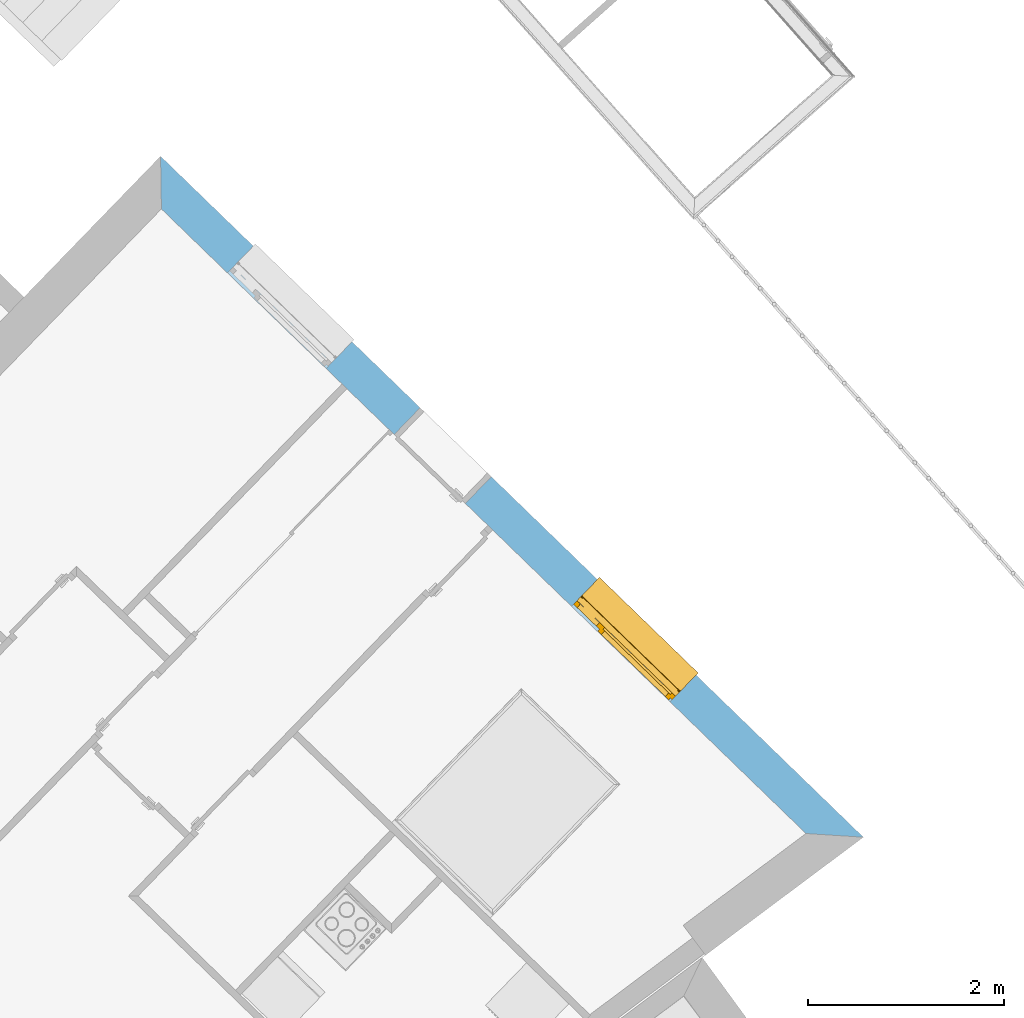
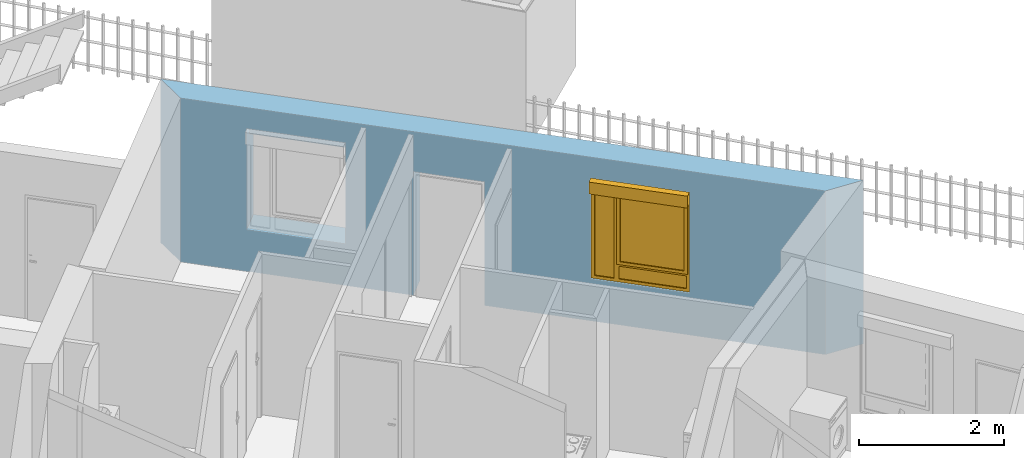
# One storey, part 25 of 195: 1 window, 3 openings, plus 1 element that does not belong to this part.
"""IFC2X3 building model written with IfcOpenShell, lengths in metres."""

import ifcopenshell
import ifcopenshell.guid

model = None  # the IFC model being written
_history = None  # IfcOwnerHistory: only IFC2X3 demands one
_inside = {}  # id of a spatial element -> (the spatial element, [elements in it])
_under = {}  # id of a project, library or spatial element -> (it, [spatial elements below it])
_declared = {}  # id of a project -> (the project, [libraries it declares])
_typed = {}  # id of a type object -> (the type object, [elements of that type])
_made_of = {}  # id of a material, layer set ... -> (it, [elements and type objects made of it])


def new_model(schema):
    """Start an empty IFC model of exactly this schema.

    Asked for "IFC4X3", IfcOpenShell would pick the latest addendum, in which some entities
    have other attributes; the version numbers below select the first issue.
    IFC2X3 requires an IfcOwnerHistory on every rooted entity: one is made here for all.
    """
    global model, _history
    if schema == "IFC4X3":
        model = ifcopenshell.file(schema_version=(4, 3, 0, 0))
    else:
        model = ifcopenshell.file(schema=schema)
    _inside.clear()
    _under.clear()
    _declared.clear()
    _typed.clear()
    _made_of.clear()
    _history = None
    if model.schema == "IFC2X3":
        org = make("IfcOrganization", Name="unknown")
        user = make(
            "IfcPersonAndOrganization",
            ThePerson=make("IfcPerson", FamilyName="unknown"),
            TheOrganization=org,
        )
        app = make(
            "IfcApplication",
            ApplicationDeveloper=org,
            Version="unknown",
            ApplicationFullName="unknown",
            ApplicationIdentifier="unknown",
        )
        _history = make(
            "IfcOwnerHistory",
            OwningUser=user,
            OwningApplication=app,
            ChangeAction="ADDED",
            CreationDate=0,
        )
    return model


def make(cls, **values):
    """One entity of the class cls with the attributes given. An attribute that is None is left unset."""
    return model.create_entity(
        cls, **{name: value for name, value in values.items() if value is not None}
    )


def entity(cls, *values):
    """Any entity or typed value of the class cls, its attributes in the order of the schema. None: left unset."""
    e = model.create_entity(cls)
    for i, value in enumerate(values):
        if value is not None:
            e[i] = value
    return e


def rooted(cls, **values):
    """An entity with a GlobalId (a new one), such as an element, a storey or a relation."""
    return make(cls, GlobalId=ifcopenshell.guid.new(), OwnerHistory=_history, **values)


def si_unit(unit_type, name, prefix=None):
    """IfcSIUnit, for example si_unit("LENGTHUNIT", "METRE", prefix="MILLI")."""
    return make("IfcSIUnit", UnitType=unit_type, Prefix=prefix, Name=name)


def converted_unit(unit_type, name, factor, base, dimensions=None, offset=None):
    """IfcConversionBasedUnit, such as the inch: factor (a typed value) times the base unit."""
    return make(
        "IfcConversionBasedUnit"
        if offset is None
        else "IfcConversionBasedUnitWithOffset",
        ConversionOffset=offset,
        Dimensions=None
        if dimensions is None
        else entity("IfcDimensionalExponents", *dimensions),
        UnitType=unit_type,
        Name=name,
        ConversionFactor=make(
            "IfcMeasureWithUnit", ValueComponent=factor, UnitComponent=base
        ),
    )


def derived_unit(unit_type, elements):
    """IfcDerivedUnit: a product of units, each with its exponent."""
    return make(
        "IfcDerivedUnit",
        Elements=[
            make("IfcDerivedUnitElement", Unit=unit, Exponent=power)
            for unit, power in elements
        ],
        UnitType=unit_type,
    )


def money_unit(currency):
    """IfcMonetaryUnit."""
    return make("IfcMonetaryUnit", Currency=currency)


def assignment(units):
    """IfcUnitAssignment: the units of a project."""
    return None if units is None else make("IfcUnitAssignment", Units=units)


def point(xyz):
    """IfcCartesianPoint."""
    return None if xyz is None else make("IfcCartesianPoint", Coordinates=xyz)


def direction(xyz):
    """IfcDirection."""
    return None if xyz is None else make("IfcDirection", DirectionRatios=xyz)


def frame(location, z_axis=None, x_axis=None):
    """IfcAxis2Placement3D, a coordinate frame: its origin and axes. An axis left out is left unset."""
    return make(
        "IfcAxis2Placement3D",
        Location=point(location),
        Axis=direction(z_axis),
        RefDirection=direction(x_axis),
    )


def frame_2d(location, x_axis=None):
    """IfcAxis2Placement2D, a coordinate frame in the plane: its origin and x axis."""
    return make(
        "IfcAxis2Placement2D", Location=point(location), RefDirection=direction(x_axis)
    )


def origin_with_axes():
    """The frame at (0, 0, 0) with the z axis (0, 0, 1) and the x axis (1, 0, 0) written out."""
    return frame((0.0, 0.0, 0.0), z_axis=(0.0, 0.0, 1.0), x_axis=(1.0, 0.0, 0.0))


def origin_2d_with_axis():
    """The frame at (0, 0) in the plane with the x axis (1, 0) written out."""
    return frame_2d((0.0, 0.0), x_axis=(1.0, 0.0))


def place(relative_to, where):
    """IfcLocalPlacement: puts the frame where relative to a parent placement (None: the world)."""
    return make(
        "IfcLocalPlacement", PlacementRelTo=relative_to, RelativePlacement=where
    )


def context(
    kind, dimensions, precision=None, world=None, true_north=None, identifier=None
):
    """IfcGeometricRepresentationContext, for example the 3D "Model" context."""
    return make(
        "IfcGeometricRepresentationContext",
        ContextIdentifier=identifier,
        ContextType=kind,
        CoordinateSpaceDimension=dimensions,
        Precision=precision,
        WorldCoordinateSystem=world,
        TrueNorth=true_north,
    )


def subcontext(parent, identifier, kind, view, scale=None):
    """IfcGeometricRepresentationSubContext, for example "Body" below "Model"."""
    return make(
        "IfcGeometricRepresentationSubContext",
        ContextIdentifier=identifier,
        ContextType=kind,
        ParentContext=parent,
        TargetScale=scale,
        TargetView=view,
    )


def project(units=None, contexts=None):
    """IfcProject with its units and contexts."""
    return rooted(
        "IfcProject",
        Name="project",
        RepresentationContexts=contexts,
        UnitsInContext=assignment(units),
    )


def spatial(cls, under=None, at=None, **own):
    """A site, building, storey or space (cls), placed at a placement, below another one or the project."""
    s = rooted(cls, ObjectPlacement=at, **own)
    if under is not None:
        _under.setdefault(under.id(), (under, []))[1].append(s)
    return s


def polyline(points):
    """IfcPolyline through the points."""
    return make("IfcPolyline", Points=[point(p) for p in points])


def profile(cls, at=None, kind="AREA", **sizes):
    """A parametric profile (cls). Its sizes go by their IFC names, for example OverallWidth=200.0."""
    return make(cls, ProfileType=kind, Position=at, **sizes)


def rectangle(**sizes):
    """IfcRectangleProfileDef."""
    return profile("IfcRectangleProfileDef", **sizes)


def outline(outer, holes=None, kind="AREA"):
    """IfcArbitraryClosedProfileDef: a profile drawn as a closed curve; with holes, ...WithVoids."""
    if holes is None:
        return make("IfcArbitraryClosedProfileDef", ProfileType=kind, OuterCurve=outer)
    return make(
        "IfcArbitraryProfileDefWithVoids",
        ProfileType=kind,
        OuterCurve=outer,
        InnerCurves=holes,
    )


def extrude(swept, where, along, depth):
    """IfcExtrudedAreaSolid: the profile swept, set in the frame where, extruded along a direction by depth."""
    return make(
        "IfcExtrudedAreaSolid",
        SweptArea=swept,
        Position=where,
        ExtrudedDirection=direction(along),
        Depth=depth,
    )


def faces_of(points, faces, orient=None, outer=None):
    """IfcFace entities. A face is a list of loops; a loop is a list of indices into points, from 0.

    orient and outer hold one flag for each loop. By default every Orientation is true, the
    first loop of a face is its IfcFaceOuterBound and the others are IfcFaceBound.
    """
    made = []
    for i, loops in enumerate(faces):
        bounds = []
        for j, loop in enumerate(loops):
            is_outer = j == 0 if outer is None else outer[i][j]
            bounds.append(
                make(
                    "IfcFaceOuterBound" if is_outer else "IfcFaceBound",
                    Bound=make("IfcPolyLoop", Polygon=[points[k] for k in loop]),
                    Orientation=True if orient is None else orient[i][j],
                )
            )
        made.append(make("IfcFace", Bounds=bounds))
    return made


def open_shell(faces, orient=None, outer=None):
    """The faces of one IfcOpenShell. surface_model builds it on its shared points."""
    return ("IfcOpenShell", faces, orient, outer)


def faceted_brep(points, faces, orient=None, outer=None, voids=None):
    """IfcFacetedBrep: a solid bounded by flat faces; with voids (closed shells), ...WithVoids."""
    shared = [point(p) for p in points]
    hull = make("IfcClosedShell", CfsFaces=faces_of(shared, faces, orient, outer))
    if voids is None:
        return make("IfcFacetedBrep", Outer=hull)
    return make(
        "IfcFacetedBrepWithVoids",
        Outer=hull,
        Voids=[
            make(cls, CfsFaces=faces_of(shared, fs, o, b)) for cls, fs, o, b in voids
        ],
    )


def surface_model(cls, points, shells):
    """IfcFaceBasedSurfaceModel or IfcShellBasedSurfaceModel (cls): surfaces that need not close."""
    shared = [point(p) for p in points]
    made = [make(c, CfsFaces=faces_of(shared, fs, o, b)) for c, fs, o, b in shells]
    if cls == "IfcFaceBasedSurfaceModel":
        return make(cls, FbsmFaces=made)
    return make(cls, SbsmBoundary=made)


def shape(context_of_items, identifier, shape_type, items):
    """IfcShapeRepresentation: the items that make up one representation, for example the "Body"."""
    return make(
        "IfcShapeRepresentation",
        ContextOfItems=context_of_items,
        RepresentationIdentifier=identifier,
        RepresentationType=shape_type,
        Items=items,
    )


def source(mapping_origin, context_of_items, identifier, shape_type, items):
    """IfcRepresentationMap: a shape defined once, which mapped items show again and again."""
    return make(
        "IfcRepresentationMap",
        MappingOrigin=mapping_origin,
        MappedRepresentation=shape(context_of_items, identifier, shape_type, items),
    )


def transform(
    local_origin,
    x_axis=None,
    y_axis=None,
    z_axis=None,
    scale=None,
    scale2=None,
    scale3=None,
    uniform=True,
):
    """IfcCartesianTransformationOperator3D, or its non-uniform kind. x_axis, y_axis, z_axis: its Axis1, 2, 3."""
    if uniform:
        return make(
            "IfcCartesianTransformationOperator3D",
            Axis1=direction(x_axis),
            Axis2=direction(y_axis),
            LocalOrigin=point(local_origin),
            Scale=scale,
            Axis3=direction(z_axis),
        )
    return make(
        "IfcCartesianTransformationOperator3DnonUniform",
        Axis1=direction(x_axis),
        Axis2=direction(y_axis),
        LocalOrigin=point(local_origin),
        Scale=scale,
        Axis3=direction(z_axis),
        Scale2=scale2,
        Scale3=scale3,
    )


def mapped(mapping_source, mapping_target):
    """IfcMappedItem: shows the shape of a source again, moved by a transform."""
    return make(
        "IfcMappedItem", MappingSource=mapping_source, MappingTarget=mapping_target
    )


def material(Name=None, Category=None):
    """IfcMaterial."""
    return make("IfcMaterial", Name=Name, Category=Category)


def layer(
    of_material, thickness, ventilated=None, Name=None, Category=None, Priority=None
):
    """IfcMaterialLayer: one layer of a wall or slab, of a material (None: an air gap)."""
    return make(
        "IfcMaterialLayer",
        Material=of_material,
        LayerThickness=thickness,
        IsVentilated=ventilated,
        Name=Name,
        Category=Category,
        Priority=Priority,
    )


def layer_set(layers, Name=None):
    """IfcMaterialLayerSet."""
    return make("IfcMaterialLayerSet", MaterialLayers=layers, LayerSetName=Name)


def layer_usage(for_layer_set, set_direction, sense, offset, extent=None):
    """IfcMaterialLayerSetUsage: how a layer set lies in its element."""
    return make(
        "IfcMaterialLayerSetUsage",
        ForLayerSet=for_layer_set,
        LayerSetDirection=set_direction,
        DirectionSense=sense,
        OffsetFromReferenceLine=offset,
        ReferenceExtent=extent,
    )


def made_of(thing, what):
    """Note that an element or type object is made of a material, layer set ...; save() writes the relation."""
    if what is not None:
        _made_of.setdefault(what.id(), (what, []))[1].append(thing)
    return thing


def type_object(cls, material=None, **own):
    """A type object (cls), such as IfcWallType, which elements share."""
    return made_of(rooted(cls, **own), material)


def element(
    cls,
    number,
    at=None,
    inside=None,
    cuts=None,
    type_object=None,
    material=None,
    context=None,
    identifier="Body",
    shape_type=None,
    held_by="IfcProductDefinitionShape",
    body=None,
    shapes=None,
    **own,
):
    """One element of the class cls, such as IfcWall. Its Tag is "e" and its number.

    at: its placement. inside: the storey or other place that contains it. cuts: it is an
    opening in that element (IfcRelVoidsElement). A single representation is given by context,
    identifier, shape_type and body (its items); several are given by shapes. held_by: the class
    of the entity that holds the representations. save() writes the other relations.
    """
    e = rooted(cls, Tag="e%d" % number, ObjectPlacement=at, **own)
    if body is not None:
        shapes = [shape(context, identifier, shape_type, body)]
    if shapes is not None:
        e.Representation = make(held_by, Representations=shapes)
    if inside is not None:
        _inside.setdefault(inside.id(), (inside, []))[1].append(e)
    if cuts is not None:
        rooted(
            "IfcRelVoidsElement", RelatingBuildingElement=cuts, RelatedOpeningElement=e
        )
    if type_object is not None:
        _typed.setdefault(type_object.id(), (type_object, []))[1].append(e)
    return made_of(e, material)


def fill(opening, filler):
    """IfcRelFillsElement: the door or window that sits in an opening."""
    return rooted(
        "IfcRelFillsElement",
        RelatingOpeningElement=opening,
        RelatedBuildingElement=filler,
    )


def aggregate(whole, parts):
    """IfcRelAggregates: a whole, such as a stair, and the parts it consists of."""
    return rooted("IfcRelAggregates", RelatingObject=whole, RelatedObjects=parts)


def save(model, path):
    """Write the relations noted so far, then the file.

    IfcRelAggregates (storeys below a building ...), IfcRelContainedInSpatialStructure (elements
    in a storey), IfcRelDefinesByType, IfcRelAssociatesMaterial and IfcRelDeclares: one each for
    every whole, place, type object, material and project.
    """
    for whole, parts in _under.values():
        aggregate(whole, parts)
    for where, things in _inside.values():
        rooted(
            "IfcRelContainedInSpatialStructure",
            RelatedElements=things,
            RelatingStructure=where,
        )
    for kind, things in _typed.values():
        rooted("IfcRelDefinesByType", RelatedObjects=things, RelatingType=kind)
    for what, things in _made_of.values():
        rooted("IfcRelAssociatesMaterial", RelatedObjects=things, RelatingMaterial=what)
    for by, libraries in _declared.values():
        rooted("IfcRelDeclares", RelatingContext=by, RelatedDefinitions=libraries)
    model.write(path)


model = new_model("IFC2X3")

# Units and contexts
model_context = context("Model", 3, precision=1e-05, world=origin_with_axes(), true_north=direction((0.0, 1.0)))
body_context = subcontext(model_context, "Body", "Model", "MODEL_VIEW")
ifc_project = project(units=[si_unit("LENGTHUNIT", "METRE"), si_unit("AREAUNIT", "SQUARE_METRE"), si_unit("VOLUMEUNIT", "CUBIC_METRE"), converted_unit("PLANEANGLEUNIT", "DEGREE", entity("IfcPlaneAngleMeasure", 0.0174532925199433), si_unit("PLANEANGLEUNIT", "RADIAN"), dimensions=[0, 0, 0, 0, 0, 0, 0]), money_unit("CHF"), converted_unit("TIMEUNIT", "Year", entity("IfcTimeMeasure", 31557600.0), si_unit("TIMEUNIT", "SECOND"), dimensions=[0, 0, 1, 0, 0, 0, 0]), si_unit("MASSUNIT", "GRAM", prefix="KILO"), si_unit("THERMODYNAMICTEMPERATUREUNIT", "DEGREE_CELSIUS"), si_unit("LUMINOUSINTENSITYUNIT", "LUMEN"), si_unit("ENERGYUNIT", "JOULE", prefix="MEGA"), derived_unit("THERMALCONDUCTANCEUNIT", [(si_unit("POWERUNIT", "WATT"), 1), (si_unit("LENGTHUNIT", "METRE"), -1), (si_unit("THERMODYNAMICTEMPERATUREUNIT", "KELVIN"), -1)]), derived_unit("SPECIFICHEATCAPACITYUNIT", [(si_unit("ENERGYUNIT", "JOULE"), 1), (si_unit("MASSUNIT", "GRAM", prefix="KILO"), -1), (si_unit("THERMODYNAMICTEMPERATUREUNIT", "KELVIN"), -1)]), derived_unit("MASSDENSITYUNIT", [(si_unit("MASSUNIT", "GRAM", prefix="KILO"), 1), (si_unit("VOLUMEUNIT", "CUBIC_METRE"), -1)])], contexts=[model_context])

# Site, building, storey
site_placement = place(None, origin_with_axes())
site = spatial("IfcSite", under=ifc_project, at=site_placement, Name="Site", CompositionType="ELEMENT")
building_placement = place(site_placement, origin_with_axes())
building = spatial("IfcBuilding", under=site, at=building_placement, Name="Bâtiment", CompositionType="ELEMENT")
storey_placement = place(building_placement, origin_with_axes())
storey = spatial("IfcBuildingStorey", under=building, at=storey_placement, Name="rdc", CompositionType="ELEMENT", Elevation=0.0)

# Wall, openings, window
ifc_material_1 = material(Name="Parpaing 312445824")
ifc_layer_1 = layer(ifc_material_1, 0.22, ventilated="UNKNOWN")
ifc_material_2 = material(Name="Isolant styromousse 301821074")
ifc_layer_2 = layer(ifc_material_2, 0.16, ventilated="UNKNOWN")
ifc_layer_set = layer_set([ifc_layer_1, ifc_layer_2], Name="isol int 22+16 0836643197")
ifc_layer_usage = layer_usage(ifc_layer_set, "AXIS2", "NEGATIVE", 0.0)
wall_type = type_object("IfcWallType", Name="isol int 22+16 0836643197 380", PredefinedType="NOTDEFINED")
wall_placement = place(storey_placement, frame((9531.989867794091, -1061.560379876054, 57.7), z_axis=(0.0, 0.0, 1.0), x_axis=(0.7181763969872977, -0.6958610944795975, 0.0)))
wall = element("IfcWallStandardCase", 1, at=wall_placement, inside=storey, type_object=wall_type, material=ifc_layer_usage, Name="Mur-116", context=body_context, shape_type="SweptSolid", body=[
    extrude(outline(polyline([(0.3800000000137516, -0.3799999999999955), (9.524551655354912, -0.3800000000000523), (9.970619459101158, 0.0), (0.0, 0.0), (0.3800000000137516, -0.3799999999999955)])), origin_with_axes(), (0.0, 0.0, 1.0), 2.75),
])
opening_1_placement = place(wall_placement, frame((6.896864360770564, 0.0, 0.7000000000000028), z_axis=(0.0, 0.0, 1.0), x_axis=(1.0, 0.0, 0.0)))
opening_1 = element("IfcOpeningElement", 2, at=opening_1_placement, cuts=wall, Name="Fen-045", context=body_context, shape_type="Brep", body=[
    faceted_brep([(-0.7000000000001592, -0.2200000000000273, 1.5), (0.6999999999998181, -0.2200000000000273, 1.5), (0.6999999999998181, 4.983827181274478, 1.5), (-0.7000000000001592, 4.983827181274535, 1.5), (-0.7000000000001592, -0.2200000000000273, 1.700000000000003), (0.6999999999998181, -0.2200000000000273, 1.700000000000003), (0.6999999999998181, -0.3000000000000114, 1.5), (0.6999999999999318, -0.3000000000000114, 0.0), (0.6999999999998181, 4.983827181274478, 0.0), (-0.7000000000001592, 4.983827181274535, 0.0), (-0.7000000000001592, -0.2999999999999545, 1.5), (-0.7000000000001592, -0.3000000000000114, 0.0), (-0.7000000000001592, -0.4799999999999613, 1.5), (-0.7000000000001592, -0.4799999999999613, 1.700000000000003), (0.6999999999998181, -0.4799999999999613, 1.700000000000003), (0.6999999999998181, -0.4799999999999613, 1.5), (0.6999999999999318, -5.36382718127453, 1.5), (0.6999999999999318, -5.36382718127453, 0.0), (-0.7000000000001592, -5.363827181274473, 0.0), (-0.7000000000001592, -5.363827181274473, 1.5)], [[[0, 1, 2, 3]], [[1, 0, 4, 5]], [[1, 6, 7, 8, 2]], [[2, 8, 9, 3]], [[10, 0, 3, 9, 11]], [[0, 10, 12, 13, 4]], [[4, 13, 14, 5]], [[6, 1, 5, 14, 15]], [[6, 15, 16, 17, 7]], [[7, 11, 9, 8]], [[12, 10, 11, 18, 19]], [[12, 15, 14, 13]], [[15, 12, 19, 16]], [[19, 18, 17, 16]], [[11, 7, 17, 18]]]),
])
opening_2_placement = place(wall_placement, frame((2.01605944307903, 0.0, 0.7000000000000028), z_axis=(0.0, 0.0, 1.0), x_axis=(1.0, 0.0, 0.0)))
element("IfcOpeningElement", 3, at=opening_2_placement, cuts=wall, Name="Fen-045", context=body_context, shape_type="Brep", body=[
    faceted_brep([(-0.7000000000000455, -0.2200000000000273, 1.5), (0.6999999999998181, -0.2200000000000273, 1.5), (0.6999999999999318, 4.983827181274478, 1.5), (-0.7000000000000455, 4.983827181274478, 1.5), (-0.7000000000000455, -0.2200000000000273, 1.700000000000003), (0.6999999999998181, -0.2200000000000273, 1.700000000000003), (0.6999999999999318, -0.3000000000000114, 1.5), (0.6999999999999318, -0.3000000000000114, 0.0), (0.6999999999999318, 4.983827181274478, 0.0), (-0.7000000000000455, 4.983827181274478, 0.0), (-0.7000000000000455, -0.2999999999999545, 1.5), (-0.7000000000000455, -0.3000000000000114, 0.0), (-0.7000000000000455, -0.4799999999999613, 1.5), (-0.7000000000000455, -0.4799999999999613, 1.700000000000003), (0.6999999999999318, -0.4799999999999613, 1.700000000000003), (0.6999999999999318, -0.4799999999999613, 1.5), (0.6999999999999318, -5.363827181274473, 1.5), (0.6999999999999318, -5.363827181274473, 0.0), (-0.7000000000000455, -5.363827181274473, 0.0), (-0.7000000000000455, -5.363827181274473, 1.5)], [[[0, 1, 2, 3]], [[1, 0, 4, 5]], [[1, 6, 7, 8, 2]], [[2, 8, 9, 3]], [[10, 0, 3, 9, 11]], [[0, 10, 12, 13, 4]], [[4, 13, 14, 5]], [[6, 1, 5, 14, 15]], [[6, 15, 16, 17, 7]], [[7, 11, 9, 8]], [[12, 10, 11, 18, 19]], [[12, 15, 14, 13]], [[15, 12, 19, 16]], [[19, 18, 17, 16]], [[11, 7, 17, 18]]]),
])
opening_3_placement = place(wall_placement, frame((4.187148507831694, 0.0, 0.0), z_axis=(0.0, 0.0, 1.0), x_axis=(1.0, 0.0, 0.0)))
element("IfcOpeningElement", 4, at=opening_3_placement, cuts=wall, Name="Por-297", context=body_context, shape_type="SweptSolid", body=[
    extrude(rectangle(XDim=1.01000001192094, YDim=2.079999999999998, at=origin_2d_with_axis()), frame((-5.960487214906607e-09, 0.3799999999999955, 1.039999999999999), z_axis=(0.0, -1.0, 0.0), x_axis=(-1.0, 0.0, 0.0)), (0.0, 0.0, 1.0), 0.76),
])
window_style = type_object("IfcWindowStyle", Name="Fenêtre variable 27", ConstructionType="NOTDEFINED", OperationType="TRIPLE_PANEL_RIGHT", ParameterTakesPrecedence=False, Sizeable=False)
shared_shape = source(origin_with_axes(), body_context, "Body", "SurfaceModel", [
    surface_model("IfcShellBasedSurfaceModel", [(-0.7, -0.05100000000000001, 0.05), (-0.7, -0.05100000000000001, 0.04), (0.7, -0.05100000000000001, 0.04000000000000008), (0.7, -0.05100000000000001, 0.05000000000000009), (-0.7, -0.3799999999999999, 0.02899999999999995), (0.7, -0.3799999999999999, 0.02900000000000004), (-0.7, -0.3799999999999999, 0.008999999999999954), (0.7, -0.3799999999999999, 0.00900000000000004), (-0.7, -0.3699999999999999, 0.01899999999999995), (0.7, -0.3699999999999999, 0.01900000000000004)], [open_shell([[[0, 1, 2, 3]], [[1, 4, 5, 2]], [[4, 6, 7, 5]], [[6, 8, 9, 7]]])]),
    faceted_brep([(-0.7, -0.13, 1.7), (-0.697, -0.13, 1.7), (-0.697, 0.13, 1.7), (-0.7, 0.13, 1.7), (-0.7, -0.13, 1.5), (-0.697, -0.13, 1.5), (-0.697, 0.13, 1.5), (-0.7, 0.13, 1.5)], [[[0, 1, 2, 3]], [[4, 5, 1, 0]], [[1, 5, 6, 2]], [[3, 2, 6, 7]], [[0, 3, 7, 4]], [[7, 6, 5, 4]]]),
    faceted_brep([(0.6970000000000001, -0.1299999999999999, 1.7), (0.7000000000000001, -0.1299999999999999, 1.7), (0.7000000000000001, 0.1300000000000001, 1.7), (0.6970000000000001, 0.1300000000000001, 1.7), (0.6970000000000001, -0.1299999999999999, 1.5), (0.7000000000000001, -0.1299999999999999, 1.5), (0.7000000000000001, 0.1300000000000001, 1.5), (0.6970000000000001, 0.1300000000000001, 1.5)], [[[0, 1, 2, 3]], [[4, 5, 1, 0]], [[1, 5, 6, 2]], [[3, 2, 6, 7]], [[0, 3, 7, 4]], [[7, 6, 5, 4]]]),
    faceted_brep([(-0.697, -0.13, 1.5), (0.697, -0.1299999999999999, 1.5), (0.697, -0.1299999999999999, 1.7), (-0.697, -0.13, 1.7), (-0.697, -0.127, 1.5), (0.697, -0.1269999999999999, 1.5), (0.697, -0.1269999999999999, 1.697), (0.697, 0.1270000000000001, 1.697), (0.697, 0.1270000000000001, 1.503), (0.697, -0.1079999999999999, 1.503), (0.697, -0.1079999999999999, 1.5), (0.697, 0.1300000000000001, 1.5), (0.697, 0.1300000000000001, 1.7), (-0.697, 0.13, 1.7), (-0.697, 0.13, 1.5), (-0.697, -0.108, 1.5), (-0.697, -0.108, 1.503), (-0.697, 0.127, 1.503), (-0.697, 0.127, 1.697), (-0.697, -0.127, 1.697)], [[[0, 1, 2, 3]], [[4, 5, 1, 0]], [[1, 5, 6, 7, 8, 9, 10, 11, 12, 2]], [[3, 2, 12, 13]], [[0, 3, 13, 14, 15, 16, 17, 18, 19, 4]], [[19, 6, 5, 4]], [[18, 7, 6, 19]], [[17, 8, 7, 18]], [[16, 9, 8, 17]], [[15, 10, 9, 16]], [[14, 11, 10, 15]], [[13, 12, 11, 14]]]),
    faceted_brep([(-0.694, -0.08075423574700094, 1.585760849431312), (-0.694, -0.08200000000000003, 1.6), (-0.694, -0.0807542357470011, 1.614239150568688), (-0.694, -0.07705479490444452, 1.628045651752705), (-0.694, -0.07101408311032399, 1.641), (-0.694, -0.06281564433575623, 1.652708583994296), (-0.694, -0.05270858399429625, 1.662815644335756), (-0.694, -0.04100000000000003, 1.671014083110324), (-0.694, -0.02804565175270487, 1.677054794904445), (-0.694, -0.01423915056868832, 1.680754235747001), (-0.694, 0.0, 1.682), (-0.694, 0.01423915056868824, 1.680754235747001), (-0.694, 0.02804565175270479, 1.677054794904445), (-0.694, 0.04099999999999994, 1.671014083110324), (-0.694, 0.05270858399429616, 1.662815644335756), (-0.694, 0.06281564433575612, 1.652708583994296), (-0.694, 0.07101408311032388, 1.641), (-0.694, 0.0770547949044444, 1.628045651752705), (-0.694, 0.08075423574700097, 1.614239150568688), (-0.694, 0.0819999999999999, 1.6), (-0.694, 0.08075423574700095, 1.585760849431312), (-0.694, 0.07705479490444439, 1.571954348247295), (-0.694, 0.07101408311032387, 1.559), (-0.694, 0.06281564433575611, 1.547291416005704), (-0.694, 0.05270858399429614, 1.537184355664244), (-0.694, 0.04099999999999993, 1.528985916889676), (-0.694, 0.02804565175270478, 1.522945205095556), (-0.694, 0.01423915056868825, 1.519245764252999), (-0.694, 0.0, 1.518), (-0.694, -0.01423915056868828, 1.519245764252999), (-0.694, -0.02804565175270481, 1.522945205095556), (-0.694, -0.04099999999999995, 1.528985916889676), (-0.694, -0.05270858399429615, 1.537184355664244), (-0.694, -0.06281564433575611, 1.547291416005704), (-0.694, -0.07101408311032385, 1.559), (-0.694, -0.07705479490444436, 1.571954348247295), (0.694, -0.08075423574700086, 1.585760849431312), (0.694, -0.08199999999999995, 1.6), (0.694, -0.08075423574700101, 1.614239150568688), (0.694, -0.07705479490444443, 1.628045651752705), (0.694, -0.07101408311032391, 1.641), (0.694, -0.06281564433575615, 1.652708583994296), (0.694, -0.05270858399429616, 1.662815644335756), (0.694, -0.04099999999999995, 1.671014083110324), (0.694, -0.02804565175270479, 1.677054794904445), (0.694, -0.01423915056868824, 1.680754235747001), (0.694, 0.0, 1.682), (0.694, 0.01423915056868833, 1.680754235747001), (0.694, 0.02804565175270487, 1.677054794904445), (0.694, 0.04100000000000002, 1.671014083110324), (0.694, 0.05270858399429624, 1.662815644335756), (0.694, 0.0628156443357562, 1.652708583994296), (0.694, 0.07101408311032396, 1.641), (0.694, 0.07705479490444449, 1.628045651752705), (0.694, 0.08075423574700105, 1.614239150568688), (0.694, 0.08199999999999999, 1.6), (0.694, 0.08075423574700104, 1.585760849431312), (0.694, 0.07705479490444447, 1.571954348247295), (0.694, 0.07101408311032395, 1.559), (0.694, 0.06281564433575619, 1.547291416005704), (0.694, 0.05270858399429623, 1.537184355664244), (0.694, 0.04100000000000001, 1.528985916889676), (0.694, 0.02804565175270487, 1.522945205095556), (0.694, 0.01423915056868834, 1.519245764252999), (0.694, 0.0, 1.518), (0.694, -0.0142391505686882, 1.519245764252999), (0.694, -0.02804565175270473, 1.522945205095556), (0.694, -0.04099999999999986, 1.528985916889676), (0.694, -0.05270858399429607, 1.537184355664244), (0.694, -0.06281564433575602, 1.547291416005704), (0.694, -0.07101408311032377, 1.559), (0.694, -0.07705479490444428, 1.571954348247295)], [[[0, 1, 2, 3, 4, 5, 6, 7, 8, 9, 10, 11, 12, 13, 14, 15, 16, 17, 18, 19, 20, 21, 22, 23, 24, 25, 26, 27, 28, 29, 30, 31, 32, 33, 34, 35]], [[0, 36, 37, 1]], [[1, 37, 38, 2]], [[2, 38, 39, 3]], [[3, 39, 40, 4]], [[4, 40, 41, 5]], [[5, 41, 42, 6]], [[6, 42, 43, 7]], [[7, 43, 44, 8]], [[8, 44, 45, 9]], [[9, 45, 46, 10]], [[10, 46, 47, 11]], [[11, 47, 48, 12]], [[12, 48, 49, 13]], [[13, 49, 50, 14]], [[14, 50, 51, 15]], [[15, 51, 52, 16]], [[16, 52, 53, 17]], [[17, 53, 54, 18]], [[18, 54, 55, 19]], [[19, 55, 56, 20]], [[20, 56, 57, 21]], [[21, 57, 58, 22]], [[22, 58, 59, 23]], [[23, 59, 60, 24]], [[24, 60, 61, 25]], [[25, 61, 62, 26]], [[26, 62, 63, 27]], [[27, 63, 64, 28]], [[28, 64, 65, 29]], [[29, 65, 66, 30]], [[30, 66, 67, 31]], [[31, 67, 68, 32]], [[32, 68, 69, 33]], [[33, 69, 70, 34]], [[34, 70, 71, 35]], [[35, 71, 36, 0]], [[36, 71, 70, 69, 68, 67, 66, 65, 64, 63, 62, 61, 60, 59, 58, 57, 56, 55, 54, 53, 52, 51, 50, 49, 48, 47, 46, 45, 44, 43, 42, 41, 40, 39, 38, 37]]]),
    faceted_brep([(0.7, -0.105, 0.03), (0.7, -0.1049999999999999, 1.5), (0.7, -0.1299999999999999, 1.5), (0.7, -0.13, 0.03), (0.6749999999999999, -0.105, 0.03), (0.6749999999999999, -0.1049999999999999, 1.5), (0.6749999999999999, -0.1079999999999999, 1.5), (0.697, -0.1079999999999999, 1.5), (0.697, -0.1269999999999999, 1.5), (0.6749999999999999, -0.1269999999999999, 1.5), (0.6749999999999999, -0.1299999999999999, 1.5), (0.6749999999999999, -0.13, 0.03), (0.6749999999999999, -0.127, 0.03), (0.697, -0.127, 0.03), (0.697, -0.108, 0.03), (0.6749999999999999, -0.108, 0.03)], [[[0, 1, 2, 3]], [[4, 5, 1, 0]], [[1, 5, 6, 7, 8, 9, 10, 2]], [[3, 2, 10, 11]], [[0, 3, 11, 12, 13, 14, 15, 4]], [[15, 6, 5, 4]], [[14, 7, 6, 15]], [[13, 8, 7, 14]], [[12, 9, 8, 13]], [[11, 10, 9, 12]]]),
    faceted_brep([(-0.7, -0.105, 0.03), (-0.7, -0.13, 0.03), (-0.7, -0.1299999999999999, 1.5), (-0.7, -0.1049999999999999, 1.5), (-0.6749999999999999, -0.105, 0.03), (-0.6749999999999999, -0.108, 0.03), (-0.697, -0.108, 0.03), (-0.697, -0.127, 0.03), (-0.6749999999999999, -0.127, 0.03), (-0.6749999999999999, -0.13, 0.03), (-0.6749999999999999, -0.1299999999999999, 1.5), (-0.6749999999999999, -0.1269999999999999, 1.5), (-0.697, -0.1269999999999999, 1.5), (-0.697, -0.1079999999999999, 1.5), (-0.6749999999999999, -0.1079999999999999, 1.5), (-0.6749999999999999, -0.1049999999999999, 1.5)], [[[0, 1, 2, 3]], [[0, 4, 5, 6, 7, 8, 9, 1]], [[1, 9, 10, 2]], [[3, 2, 10, 11, 12, 13, 14, 15]], [[4, 0, 3, 15]], [[5, 4, 15, 14]], [[6, 5, 14, 13]], [[7, 6, 13, 12]], [[8, 7, 12, 11]], [[9, 8, 11, 10]]]),
    surface_model("IfcShellBasedSurfaceModel", [(-0.697, -0.115, 1.6), (0.697, -0.1149999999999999, 1.6), (0.697, -0.1199999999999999, 1.6), (-0.697, -0.12, 1.6), (-0.697, -0.115, 1.6), (-0.697, -0.12, 1.6), (0.697, -0.12, 1.6), (0.697, -0.1149999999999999, 1.6)], [open_shell([[[0, 1, 2, 3]], [[4, 5, 6, 7]]])]),
    faceted_brep([(-0.697, -0.115, 1.6), (0.697, -0.1149999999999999, 1.6), (0.697, -0.1166666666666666, 1.583333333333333), (-0.697, -0.1166666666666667, 1.583333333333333), (-0.697, -0.12, 1.6), (0.697, -0.1199999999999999, 1.6), (0.697, -0.1216666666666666, 1.583333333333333), (0.697, -0.1216666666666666, 1.566666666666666), (0.697, -0.1199999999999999, 1.55), (0.697, -0.1149999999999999, 1.55), (0.697, -0.1166666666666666, 1.566666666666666), (-0.697, -0.1166666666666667, 1.566666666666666), (-0.697, -0.115, 1.55), (-0.697, -0.12, 1.55), (-0.697, -0.1216666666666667, 1.566666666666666), (-0.697, -0.1216666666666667, 1.583333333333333)], [[[0, 1, 2, 3]], [[4, 5, 1, 0]], [[1, 5, 6, 7, 8, 9, 10, 2]], [[3, 2, 10, 11]], [[0, 3, 11, 12, 13, 14, 15, 4]], [[15, 6, 5, 4]], [[14, 7, 6, 15]], [[13, 8, 7, 14]], [[12, 9, 8, 13]], [[11, 10, 9, 12]]]),
    faceted_brep([(-0.697, -0.115, 1.55), (0.697, -0.1149999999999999, 1.55), (0.697, -0.1166666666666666, 1.533333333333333), (-0.697, -0.1166666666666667, 1.533333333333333), (-0.697, -0.12, 1.55), (0.697, -0.1199999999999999, 1.55), (0.697, -0.1216666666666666, 1.533333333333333), (0.697, -0.1216666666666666, 1.516666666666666), (0.697, -0.1199999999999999, 1.5), (0.697, -0.1149999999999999, 1.5), (0.697, -0.1166666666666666, 1.516666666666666), (-0.697, -0.1166666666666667, 1.516666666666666), (-0.697, -0.115, 1.5), (-0.697, -0.12, 1.5), (-0.697, -0.1216666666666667, 1.516666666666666), (-0.697, -0.1216666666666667, 1.533333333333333)], [[[0, 1, 2, 3]], [[4, 5, 1, 0]], [[1, 5, 6, 7, 8, 9, 10, 2]], [[3, 2, 10, 11]], [[0, 3, 11, 12, 13, 14, 15, 4]], [[15, 6, 5, 4]], [[14, 7, 6, 15]], [[13, 8, 7, 14]], [[12, 9, 8, 13]], [[11, 10, 9, 12]]]),
    faceted_brep([(-0.6749999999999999, 0.0, 1.45), (-0.7, 0.0, 1.45), (-0.7, -0.05000000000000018, 1.45), (-0.6499999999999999, -0.05000000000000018, 1.45), (-0.6499999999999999, -0.02500000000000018, 1.45), (-0.6749999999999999, -0.02500000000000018, 1.45), (-0.6749999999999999, 0.0, 0.3099999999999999), (-0.6499999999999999, 0.0, 0.3099999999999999), (-0.6499999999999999, 0.0, 0.265), (-0.6499999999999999, 0.0, 0.05000000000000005), (-0.7, 0.0, 0.05000000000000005), (-0.7, -0.05000000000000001, 0.05000000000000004), (-0.6499999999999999, -0.05000000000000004, 0.335), (-0.6499999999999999, -0.05000000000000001, 0.05000000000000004), (-0.6499999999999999, -0.05000000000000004, 0.265), (-0.6499999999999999, -0.02500000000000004, 0.335), (-0.6499999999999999, -0.02500000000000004, 0.3099999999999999), (-0.6749999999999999, -0.02500000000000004, 0.3099999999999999)], [[[0, 1, 2, 3, 4, 5]], [[6, 7, 8, 9, 10, 1, 0]], [[1, 10, 11, 2]], [[12, 3, 2, 11, 13, 14]], [[4, 3, 12, 15]], [[15, 16, 17, 5, 4]], [[5, 17, 6, 0]], [[6, 17, 16, 7]], [[16, 15, 12, 14, 8, 7]], [[9, 8, 14, 13]], [[10, 9, 13, 11]]]),
    faceted_brep([(0.3068894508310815, -0.02500000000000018, 1.45), (0.3068894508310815, -0.05000000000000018, 1.45), (0.3768894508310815, -0.05000000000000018, 1.45), (0.3768894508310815, 0.0, 1.45), (0.3318894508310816, 0.0, 1.45), (0.3318894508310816, -0.02500000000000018, 1.45), (0.3068894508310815, -0.02500000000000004, 0.335), (0.3068894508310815, -0.05000000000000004, 0.335), (0.3068894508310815, -0.05000000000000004, 0.265), (0.3068894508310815, -0.05000000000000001, 0.05000000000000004), (0.3768894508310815, -0.05000000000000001, 0.05000000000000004), (0.3768894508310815, 0.0, 0.05000000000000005), (0.3318894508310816, 0.0, 0.3099999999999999), (0.3068894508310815, 0.0, 0.05000000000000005), (0.3068894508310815, 0.0, 0.265), (0.3068894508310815, 0.0, 0.3099999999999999), (0.3318894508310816, -0.02500000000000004, 0.3099999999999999), (0.3068894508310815, -0.02500000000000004, 0.3099999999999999)], [[[0, 1, 2, 3, 4, 5]], [[6, 7, 1, 0]], [[8, 9, 10, 2, 1, 7]], [[11, 3, 2, 10]], [[12, 4, 3, 11, 13, 14, 15]], [[12, 16, 5, 4]], [[5, 16, 17, 6, 0]], [[17, 15, 14, 8, 7, 6]], [[14, 13, 9, 8]], [[13, 11, 10, 9]], [[15, 17, 16, 12]]]),
    faceted_brep([(-0.6499999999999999, -0.02500000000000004, 0.335), (-0.6499999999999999, -0.05000000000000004, 0.335), (0.3068894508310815, -0.05000000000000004, 0.335), (0.3068894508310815, -0.02500000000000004, 0.335), (-0.6499999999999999, -0.02500000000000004, 0.3099999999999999), (-0.6499999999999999, 0.0, 0.3099999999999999), (-0.6499999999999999, 0.0, 0.265), (-0.6499999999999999, -0.05000000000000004, 0.265), (0.3068894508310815, -0.05000000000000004, 0.265), (0.3068894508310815, -0.02500000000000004, 0.3099999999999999), (0.3068894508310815, 0.0, 0.265), (0.3068894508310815, 0.0, 0.3099999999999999)], [[[0, 1, 2, 3]], [[4, 5, 6, 7, 1, 0]], [[2, 1, 7, 8]], [[9, 3, 2, 8, 10, 11]], [[9, 4, 0, 3]], [[5, 4, 9, 11]], [[11, 10, 6, 5]], [[6, 10, 8, 7]]]),
    faceted_brep([(-0.6749999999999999, 0.0, 1.45), (-0.7, 0.0, 1.45), (-0.7, 0.0, 1.5), (0.7, 0.0, 1.5), (0.7, 0.0, 1.45), (0.6499999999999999, 0.0, 1.45), (0.3768894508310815, 0.0, 1.45), (0.3318894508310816, 0.0, 1.45), (0.3318894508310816, 0.0, 1.475), (-0.6749999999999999, 0.0, 1.475), (-0.6749999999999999, -0.02500000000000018, 1.45), (-0.6499999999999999, -0.02500000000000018, 1.45), (-0.6499999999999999, -0.05000000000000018, 1.45), (-0.7, -0.05000000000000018, 1.45), (-0.7, -0.05000000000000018, 1.5), (0.7, -0.05000000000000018, 1.5), (0.7, -0.05000000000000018, 1.45), (0.6499999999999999, -0.05000000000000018, 1.45), (0.3768894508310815, -0.05000000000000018, 1.45), (0.3318894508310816, -0.02500000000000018, 1.45), (0.3068894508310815, -0.05000000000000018, 1.45), (0.3068894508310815, -0.02500000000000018, 1.45), (0.3318894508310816, -0.02500000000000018, 1.475), (-0.6749999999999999, -0.02500000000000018, 1.475)], [[[0, 1, 2, 3, 4, 5, 6, 7, 8, 9]], [[10, 11, 12, 13, 1, 0]], [[2, 1, 13, 14]], [[3, 2, 14, 15]], [[4, 3, 15, 16]], [[5, 4, 16, 17]], [[6, 5, 17, 18]], [[19, 7, 6, 18, 20, 21]], [[7, 19, 22, 8]], [[8, 22, 23, 9]], [[9, 23, 10, 0]], [[21, 11, 10, 23, 22, 19]], [[21, 20, 12, 11]], [[18, 17, 16, 15, 14, 13, 12, 20]]]),
    faceted_brep([(0.6499999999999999, -0.05000000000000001, 0.05), (0.6499999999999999, 0.0, 0.05000000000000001), (0.7, 0.0, 0.05000000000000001), (0.7, -0.05000000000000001, 0.05), (0.6499999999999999, -0.05000000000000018, 1.45), (0.6499999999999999, 0.0, 1.45), (0.7, 0.0, 1.45), (0.7, -0.05000000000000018, 1.45)], [[[0, 1, 2, 3]], [[4, 5, 1, 0]], [[1, 5, 6, 2]], [[3, 2, 6, 7]], [[0, 3, 7, 4]], [[7, 6, 5, 4]]]),
    faceted_brep([(-0.6499999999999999, -0.05000000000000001, 0.05), (-0.6499999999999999, 0.0, 0.05000000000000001), (-0.7, 0.0, 0.05000000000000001), (-0.7, -0.05000000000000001, 0.05), (0.3068894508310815, -0.05000000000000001, 0.05), (0.3068894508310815, 0.0, 0.05000000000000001), (0.3768894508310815, 0.0, 0.05000000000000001), (0.6499999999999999, 0.0, 0.05000000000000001), (0.7, 0.0, 0.05000000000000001), (0.7, 0.0, 0.0), (-0.7, 0.0, 0.0), (-0.7, -0.05, 0.0), (0.7, -0.05, 0.0), (0.7, -0.05000000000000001, 0.05), (0.6499999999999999, -0.05000000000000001, 0.05), (0.3768894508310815, -0.05000000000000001, 0.05)], [[[0, 1, 2, 3]], [[4, 5, 1, 0]], [[1, 5, 6, 7, 8, 9, 10, 2]], [[3, 2, 10, 11]], [[0, 3, 11, 12, 13, 14, 15, 4]], [[15, 6, 5, 4]], [[14, 7, 6, 15]], [[13, 8, 7, 14]], [[12, 9, 8, 13]], [[11, 10, 9, 12]]]),
    faceted_brep([(-0.625, -0.02500000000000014, 1.425), (-0.625, 0.02499999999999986, 1.425), (-0.6749999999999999, 0.02499999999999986, 1.425), (-0.6749999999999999, -0.02500000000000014, 1.425), (-0.625, -0.02500000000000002, 0.3599999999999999), (-0.625, 0.02499999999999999, 0.3599999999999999), (-0.6749999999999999, 0.02499999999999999, 0.3599999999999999), (-0.6749999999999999, -0.02500000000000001, 0.3599999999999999)], [[[0, 1, 2, 3]], [[4, 5, 1, 0]], [[1, 5, 6, 2]], [[3, 2, 6, 7]], [[0, 3, 7, 4]], [[7, 6, 5, 4]]]),
    faceted_brep([(0.2818894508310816, -0.02500000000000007, 0.3599999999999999), (0.2818894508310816, 0.02499999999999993, 0.3599999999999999), (0.3318894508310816, 0.02499999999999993, 0.3599999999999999), (0.3318894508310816, -0.02500000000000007, 0.3599999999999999), (0.2818894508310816, -0.0250000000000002, 1.425), (0.2818894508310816, 0.0249999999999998, 1.425), (0.3318894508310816, 0.0249999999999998, 1.425), (0.3318894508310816, -0.0250000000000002, 1.425)], [[[0, 1, 2, 3]], [[4, 5, 1, 0]], [[1, 5, 6, 2]], [[3, 2, 6, 7]], [[0, 3, 7, 4]], [[7, 6, 5, 4]]]),
    faceted_brep([(0.3318894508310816, -0.02500000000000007, 0.3099999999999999), (0.3318894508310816, 0.02499999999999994, 0.3099999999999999), (0.3318894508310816, 0.02499999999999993, 0.3599999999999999), (0.3318894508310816, -0.02500000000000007, 0.3599999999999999), (-0.6749999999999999, -0.025, 0.3099999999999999), (-0.6749999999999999, 0.02499999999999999, 0.3099999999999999), (-0.6749999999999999, 0.02499999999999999, 0.3599999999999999), (-0.625, 0.02499999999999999, 0.3599999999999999), (0.2818894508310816, 0.02499999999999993, 0.3599999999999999), (0.2818894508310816, -0.02500000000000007, 0.3599999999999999), (-0.625, -0.02500000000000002, 0.3599999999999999), (-0.6749999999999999, -0.02500000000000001, 0.3599999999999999)], [[[0, 1, 2, 3]], [[4, 5, 1, 0]], [[1, 5, 6, 7, 8, 2]], [[3, 2, 8, 9]], [[0, 3, 9, 10, 11, 4]], [[11, 6, 5, 4]], [[10, 7, 6, 11]], [[9, 8, 7, 10]]]),
    faceted_brep([(-0.6749999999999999, -0.02500000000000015, 1.475), (-0.6749999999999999, 0.02499999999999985, 1.475), (-0.6749999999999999, 0.02499999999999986, 1.425), (-0.6749999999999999, -0.02500000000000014, 1.425), (0.3318894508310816, -0.02500000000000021, 1.475), (0.3318894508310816, 0.02499999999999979, 1.475), (0.3318894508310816, 0.0249999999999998, 1.425), (0.2818894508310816, 0.0249999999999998, 1.425), (-0.625, 0.02499999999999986, 1.425), (-0.625, -0.02500000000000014, 1.425), (0.2818894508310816, -0.0250000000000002, 1.425), (0.3318894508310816, -0.0250000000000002, 1.425)], [[[0, 1, 2, 3]], [[4, 5, 1, 0]], [[1, 5, 6, 7, 8, 2]], [[3, 2, 8, 9]], [[0, 3, 9, 10, 11, 4]], [[11, 6, 5, 4]], [[10, 7, 6, 11]], [[9, 8, 7, 10]]]),
    surface_model("IfcShellBasedSurfaceModel", [(-0.625, -0.01000000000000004, 0.3599999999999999), (0.2818894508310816, -0.01000000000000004, 0.3599999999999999), (0.2818894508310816, -0.01000000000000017, 1.425), (-0.625, -0.01000000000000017, 1.425)], [open_shell([[[0, 1, 2, 3]]])]),
    surface_model("IfcShellBasedSurfaceModel", [(-0.625, 0.009999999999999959, 0.3599999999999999), (-0.625, 0.00999999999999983, 1.425), (0.2818894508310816, 0.00999999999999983, 1.425), (0.2818894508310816, 0.009999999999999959, 0.3599999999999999)], [open_shell([[[0, 1, 2, 3]]])]),
    surface_model("IfcShellBasedSurfaceModel", [(0.3768894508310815, -0.035, 0.05), (0.65, -0.035, 0.05), (0.65, -0.03500000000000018, 1.45), (0.3768894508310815, -0.03500000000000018, 1.45)], [open_shell([[[0, 1, 2, 3]]])]),
    surface_model("IfcShellBasedSurfaceModel", [(0.3768894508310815, -0.015, 0.05), (0.3768894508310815, -0.01500000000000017, 1.45), (0.65, -0.01500000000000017, 1.45), (0.65, -0.015, 0.05)], [open_shell([[[0, 1, 2, 3]]])]),
    surface_model("IfcShellBasedSurfaceModel", [(-0.6499999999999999, -0.035, 0.05), (0.3068894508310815, -0.035, 0.05), (0.3068894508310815, -0.03500000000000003, 0.265), (-0.6499999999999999, -0.03500000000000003, 0.265)], [open_shell([[[0, 1, 2, 3]]])]),
    surface_model("IfcShellBasedSurfaceModel", [(-0.6499999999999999, -0.015, 0.05), (-0.6499999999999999, -0.01500000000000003, 0.265), (0.3068894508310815, -0.01500000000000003, 0.265), (0.3068894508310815, -0.015, 0.05)], [open_shell([[[0, 1, 2, 3]]])]),
])
window_placement = place(opening_1_placement, frame((0.6999999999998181, 0.0, 0.0), z_axis=(0.0, 0.0, 1.0), x_axis=(-1.0, 0.0, 0.0)))
window = element("IfcWindow", 5, at=window_placement, inside=storey, type_object=window_style, Name="Fen-045", OverallHeight=1.5, OverallWidth=1.4, context=body_context, shape_type="MappedRepresentation", body=[
    mapped(shared_shape, transform((0.7000000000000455, 0.3500000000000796, 0.0))),
])
fill(opening_1, window)

save(model, "model.ifc")
